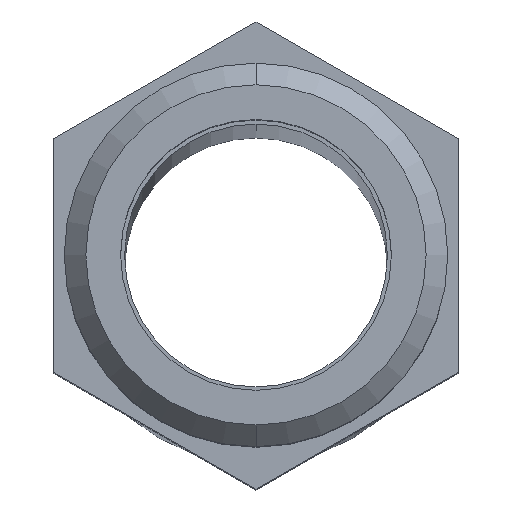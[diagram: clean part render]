
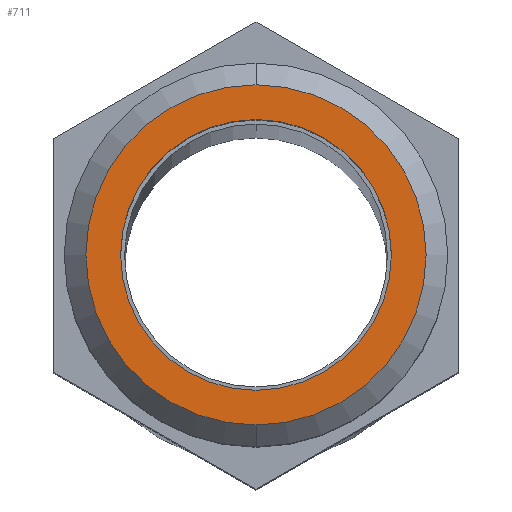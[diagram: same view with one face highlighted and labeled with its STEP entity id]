
A CAD part, top view. The second image highlights one B-rep face of the part: STEP entity #711.
In plain terms, the highlighted planar face has unit normal (0, 0, 1).
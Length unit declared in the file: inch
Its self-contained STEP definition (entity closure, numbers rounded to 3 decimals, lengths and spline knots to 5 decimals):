
#14 = FACE_BOUND ( 'NONE', #278, .T. ) ;
#15 = DIRECTION ( 'NONE',  ( 0., 0., -1. ) ) ;
#35 = CARTESIAN_POINT ( 'NONE',  ( 0., 0.1875, 0.48 ) ) ;
#42 = ORIENTED_EDGE ( 'NONE', *, *, #786, .F. ) ;
#54 = ORIENTED_EDGE ( 'NONE', *, *, #865, .F. ) ;
#96 = DIRECTION ( 'NONE',  ( 0., 0., -1. ) ) ;
#108 = EDGE_LOOP ( 'NONE', ( #54, #42 ) ) ;
#126 = CIRCLE ( 'NONE', #583, 0.1875 ) ;
#141 = VERTEX_POINT ( 'NONE', #523 ) ;
#149 = VERTEX_POINT ( 'NONE', #757 ) ;
#172 = DIRECTION ( 'NONE',  ( 0., 0., -1. ) ) ;
#189 = CARTESIAN_POINT ( 'NONE',  ( 0., -0.2355, 0.48 ) ) ;
#198 = CARTESIAN_POINT ( 'NONE',  ( 0., 0., 0.48 ) ) ;
#209 = CIRCLE ( 'NONE', #425, 0.2355 ) ;
#211 = AXIS2_PLACEMENT_3D ( 'NONE', #803, #172, #668 ) ;
#278 = EDGE_LOOP ( 'NONE', ( #320, #719 ) ) ;
#320 = ORIENTED_EDGE ( 'NONE', *, *, #336, .T. ) ;
#336 = EDGE_CURVE ( 'NONE', #149, #564, #546, .T. ) ;
#373 = CARTESIAN_POINT ( 'NONE',  ( 0., 0., 0.48 ) ) ;
#390 = DIRECTION ( 'NONE',  ( 0., 0., 1. ) ) ;
#425 = AXIS2_PLACEMENT_3D ( 'NONE', #198, #510, #647 ) ;
#426 = CIRCLE ( 'NONE', #863, 0.2355 ) ;
#454 = PLANE ( 'NONE',  #822 ) ;
#457 = DIRECTION ( 'NONE',  ( 0., 1., 0. ) ) ;
#483 = CARTESIAN_POINT ( 'NONE',  ( 0., -0.1875, 0.48 ) ) ;
#503 = VERTEX_POINT ( 'NONE', #189 ) ;
#510 = DIRECTION ( 'NONE',  ( 0., 0., -1. ) ) ;
#523 = CARTESIAN_POINT ( 'NONE',  ( 0., 0.2355, 0.48 ) ) ;
#529 = DIRECTION ( 'NONE',  ( 0., -1., 0. ) ) ;
#546 = CIRCLE ( 'NONE', #211, 0.1875 ) ;
#564 = VERTEX_POINT ( 'NONE', #483 ) ;
#583 = AXIS2_PLACEMENT_3D ( 'NONE', #671, #96, #816 ) ;
#647 = DIRECTION ( 'NONE',  ( 0., 1., 0. ) ) ;
#668 = DIRECTION ( 'NONE',  ( 0., 1., 0. ) ) ;
#671 = CARTESIAN_POINT ( 'NONE',  ( 0., 0., 0.48 ) ) ;
#700 = EDGE_CURVE ( 'NONE', #564, #149, #126, .T. ) ;
#711 = ADVANCED_FACE ( 'NONE', ( #14, #734 ), #454, .T. ) ;
#719 = ORIENTED_EDGE ( 'NONE', *, *, #700, .T. ) ;
#734 = FACE_OUTER_BOUND ( 'NONE', #108, .T. ) ;
#757 = CARTESIAN_POINT ( 'NONE',  ( 0., 0.1875, 0.48 ) ) ;
#786 = EDGE_CURVE ( 'NONE', #503, #141, #209, .T. ) ;
#803 = CARTESIAN_POINT ( 'NONE',  ( 0., 0., 0.48 ) ) ;
#816 = DIRECTION ( 'NONE',  ( 0., 1., 0. ) ) ;
#822 = AXIS2_PLACEMENT_3D ( 'NONE', #35, #390, #529 ) ;
#863 = AXIS2_PLACEMENT_3D ( 'NONE', #373, #15, #457 ) ;
#865 = EDGE_CURVE ( 'NONE', #141, #503, #426, .T. ) ;
